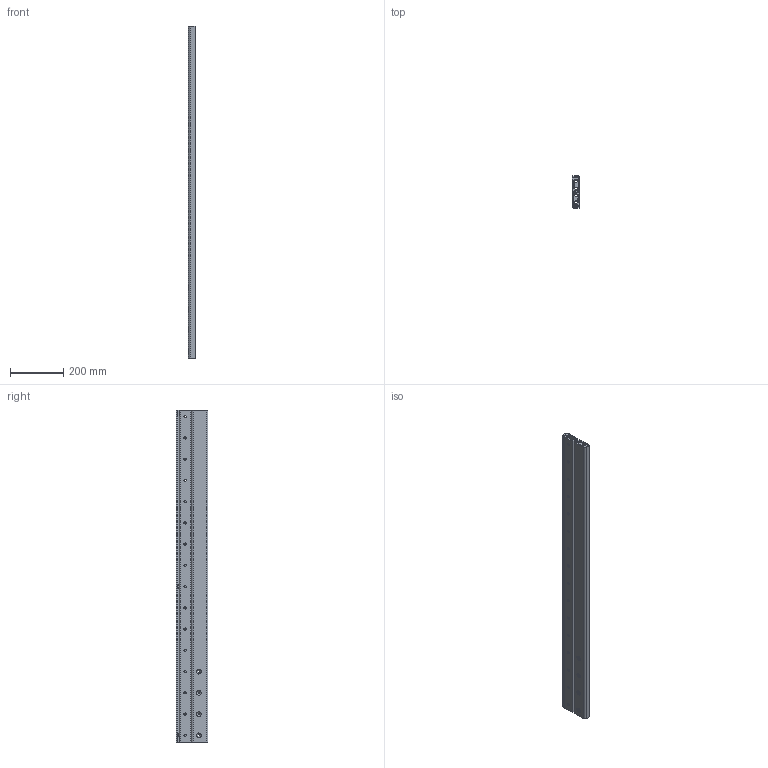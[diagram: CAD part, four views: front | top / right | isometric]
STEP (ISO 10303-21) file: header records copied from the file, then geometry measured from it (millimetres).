
FILE_DESCRIPTION(('STEP AP214'),'1');
FILE_NAME('rail_dss43-1250_00.stp','2017-04-17T04:00:10',('TraceParts'),('TraceParts S.A.'),'Spatial InterOp 3D',' ',' ');
FILE_SCHEMA(('automotive_design'));
Length unit declared in the file: millimetre
Products named in the file (3): rail_dss43-1250_00_1; rail_dss43-1250_00_2; rail_dss43-1250_00_3
Bounding box: 28 x 120 x 1250 mm (x, y, z)
Volume: 2217561.2 mm3; surface area: 893208.5 mm2
Topology: 3 solids, 3 shells, 334 faces, 890 edges, 572 vertices
Faces by surface type: plane 138, cylinder 132, cone 64
Entity records: 10631 total; most frequent: DIRECTION 1908, CARTESIAN_POINT 1799, ORIENTED_EDGE 1780, EDGE_CURVE 890, AXIS2_PLACEMENT_3D 681, VERTEX_POINT 572, LINE 546, VECTOR 546
